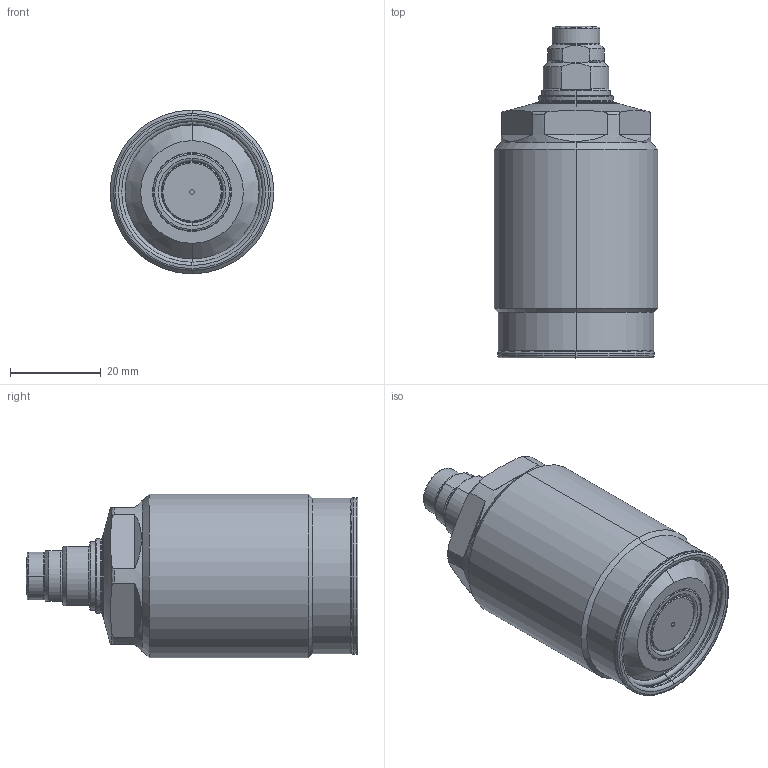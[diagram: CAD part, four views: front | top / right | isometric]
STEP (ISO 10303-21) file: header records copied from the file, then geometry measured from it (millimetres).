
FILE_DESCRIPTION(/* description */ (''),/* implementation_level */ '2;1');
FILE_NAME(/* name */ 'TSC36-M.stp',/* time_stamp */ '2026-02-04T13:55:55+08:00',/* author */ (''),/* organization */ (''),/* preprocessor_version */ 'ST-DEVELOPER v16.7',/* originating_system */ 'SIEMENS PLM Software NX 12.0',/* authorisation */ '');
FILE_SCHEMA (('AUTOMOTIVE_DESIGN { 1 0 10303 214 3 1 1 1 }'));
Length unit declared in the file: millimetre
Products named in the file (9): XLC-M10SP_contactbolt1965; XLC-M10_Oring1748; XLC-M10SP_pin10174; XLC-M10SP_pad1821; AS568-026(90); TSC36-M-01; TSC36-M-02; TSC36-M-03; LD0363-xM_step
Assembly tree (8 placements, depth 3):
  LD0363-xM_step
    TSC36-M-02
    TSC36-M-01
    TSC36-M-03
      XLC-M10SP_pad1821
      XLC-M10SP_pin10174
      XLC-M10_Oring1748
      XLC-M10SP_contactbolt1965
    AS568-026(90)
Bounding box: 36 x 73 x 36 mm (x, y, z)
Volume: 54505.9 mm3; surface area: 12410.2 mm2
Topology: 7 solids, 7 shells, 417 faces, 876 edges, 486 vertices
Faces by surface type: cone 244, torus 64, cylinder 58, plane 45, sphere 6
Entity records: 11766 total; most frequent: CARTESIAN_POINT 2454, DIRECTION 2156, ORIENTED_EDGE 1752, AXIS2_PLACEMENT_3D 912, EDGE_CURVE 876, VERTEX_POINT 486, CIRCLE 486, EDGE_LOOP 442
